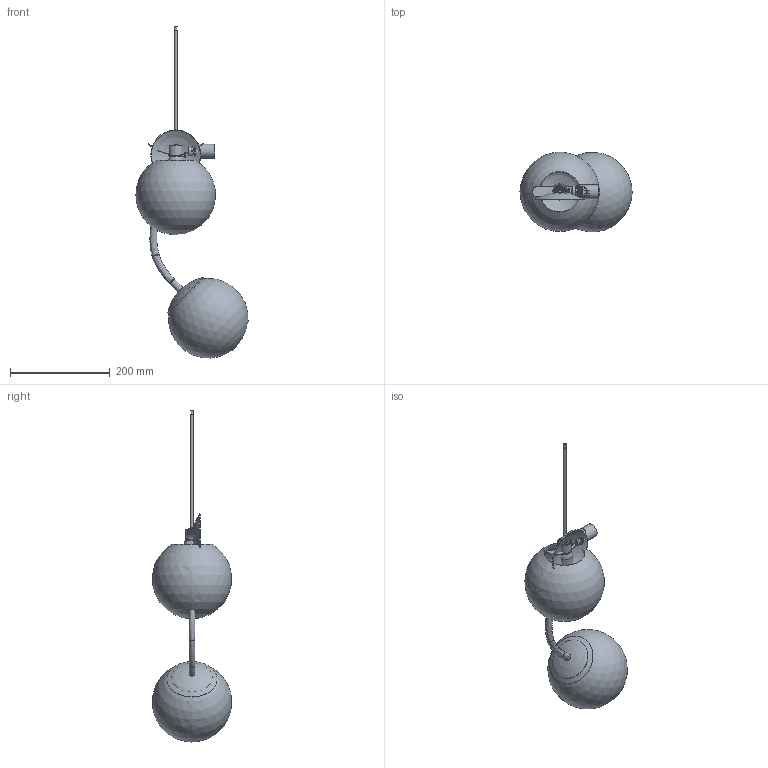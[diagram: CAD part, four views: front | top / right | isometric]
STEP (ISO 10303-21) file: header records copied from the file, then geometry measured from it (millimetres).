
FILE_DESCRIPTION( ( 'Unknown' ), '1' );
FILE_NAME( '//MMS001/Pubblica/PROGETTI MM LAMPADARI/7428 ESSE/7428BMP2TR1 BRACCIO MEDIO.stp', 'Unknown', ( 'Unknown' ), ( 'Unknown' ), 'XStep 1.0', 'Unknown', ' ' );
FILE_SCHEMA( ( 'automotive_design' ) );
Length unit declared in the file: millimetre
Products named in the file (16): Assem1; Assem2; 400231108 CAPPELLOTTO E14 BIANCO; 400233112 CAMICIA E14 BIANCA LISCIA; 7428C001 SFERA DUE FILETTI; 400104015 TUBETTO FILETTATO D9,5 L=15; 400104020 TUBETTO FILETTATO D9,5 L=20; 7428C005 PIATTINO BOMBATO; 400116003 BICCHIERINO E14; 400109001 RONDELLA DENTATA M10; 400108502 DADO M10x1; 400343354 SFERA D160 MM BL LUCIDO F.80; 400110034 MOLLA ACCIAIO SP.0,3 MM L.120 MM; 400900848 RACCORDO OT D.13X17 MM M10X1 FIL.M6; 300239020 CAVO 2X0,75 TONDO TRASP. FEP+PVC; 7428C003 BRACCIO MEDIO
Bounding box: 224.92 x 158.28 x 665.48 mm (x, y, z)
Volume: 714962.4 mm3; surface area: 453829 mm2
Topology: 30 solids, 30 shells, 989 faces, 2643 edges, 1731 vertices
Faces by surface type: plane 615, cylinder 205, cone 77, bspline 52, torus 30, sphere 10
Full cylindrical faces by diameter (mm): 1.567 x3, 2 x3, 3 x3, 4.917 x2, 6 x2, 7 x2, 8 x6, 8.917 x10, 10 x8, 10.25 x6, 12 x4, 13 x2, 14 x2, 16 x3, 20 x3, 22.5 x15, 28 x6, 32 x2, 33 x2, 80 x2
Entity records: 18696 total; most frequent: CARTESIAN_POINT 9494, DIRECTION 1853, ORIENTED_EDGE 1792, EDGE_CURVE 896, AXIS2_PLACEMENT_3D 705, VERTEX_POINT 623, EDGE_LOOP 473, LINE 443
